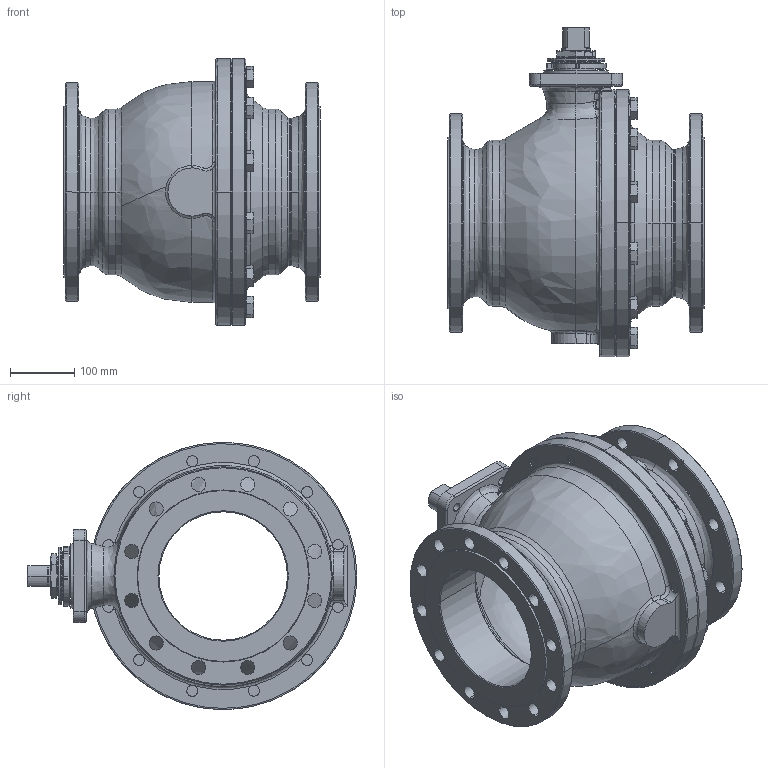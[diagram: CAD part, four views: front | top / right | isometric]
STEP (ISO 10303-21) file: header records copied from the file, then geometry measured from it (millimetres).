
FILE_DESCRIPTION (( 'STEP AP214' ), '1' );
FILE_NAME ('FIG 516 - DN100 eje libre.STEP', '2016-10-04T14:53:06', ( '' ), ( '' ), 'SwSTEP 2.0', 'SolidWorks 2016', '' );
FILE_SCHEMA (( 'AUTOMOTIVE_DESIGN' ));
Length unit declared in the file: millimetre
Products named in the file (13): 00841000; DIN 933 - M20 x 45_DIN 933 - M20 x 45; 5184_08; 0516200C; EPI200Q; 0516200L; 00840920; 5184_41; FIG 516 - DN100 eje libre; JT200FV (60x45x2); 5284_46; P200G (60x45x7,2)_Comprimida; 5184_07
Assembly tree (27 placements, depth 2):
  FIG 516 - DN100 eje libre
    0516200C
    0516200L
    EPI200Q
    P200G (60x45x7,2)_Comprimida  x4
    00841000
    JT200FV (60x45x2)
    00840920
    5184_41
    5184_08  x2
    5284_46
    5184_07
    DIN 933 - M20 x 45_DIN 933 - M20 x 45  x12
Bounding box: 400 x 513 x 416 mm (x, y, z)
Volume: 10932878.1 mm3; surface area: 1478076.9 mm2
Topology: 27 solids, 27 shells, 913 faces, 2099 edges, 1252 vertices
Faces by surface type: cylinder 292, plane 282, cone 219, bspline 86, torus 32, sphere 2
Entity records: 24293 total; most frequent: CARTESIAN_POINT 10258, DIRECTION 2882, ORIENTED_EDGE 2738, EDGE_CURVE 1369, AXIS2_PLACEMENT_3D 1218, VERTEX_POINT 842, CIRCLE 708, EDGE_LOOP 699
